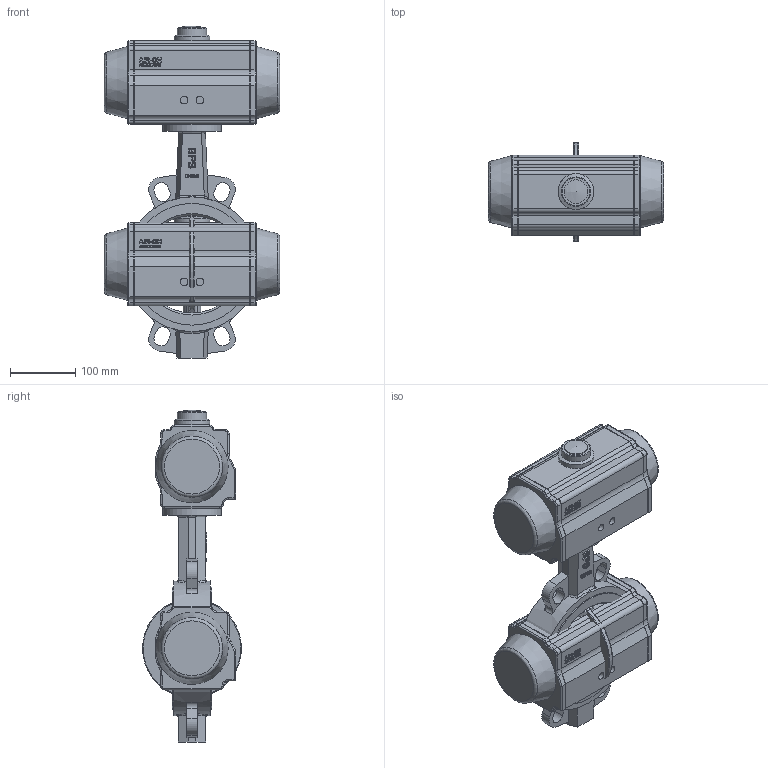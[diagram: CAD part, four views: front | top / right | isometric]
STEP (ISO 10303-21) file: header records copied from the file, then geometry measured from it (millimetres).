
FILE_DESCRIPTION( ( 'Unknown' ), '1' );
FILE_NAME( 'R:/ECCUA/ROOTSI BPS 3D vidinad/Poordklapid Wafer type/Butterfly valve(wafer) with pneumatic actuator BPS/STEP formaat/BPS 2303150P butterfly valve DN150.stp', 'Unknown', ( 'Unknown' ), ( 'Unknown' ), 'PSStep 10.1', 'Unknown', ' ' );
FILE_SCHEMA( ( 'AUTOMOTIVE_DESIGN { 1 0 10303 214 1 1 1 1 }' ) );
Length unit declared in the file: millimetre
Products named in the file (5): Assem1; Butterfly valve wafer type DN150 BPS; BPS 8300100DA-SR pneumatic actuator
Bounding box: 269 x 152 x 510 mm (x, y, z)
Volume: 9742111.9 mm3; surface area: 777469.7 mm2
Topology: 8 solids, 8 shells, 1016 faces, 2582 edges, 1668 vertices
Faces by surface type: plane 326, extrusion 300, cylinder 240, torus 78, bspline 44, cone 26, sphere 2
Full cylindrical faces by diameter (mm): 6.647 x8, 8.376 x8, 9 x8, 11.445 x4, 36 x2, 45 x2, 55 x2, 90 x2, 150 x2, 187 x4, 207 x2
Entity records: 23946 total; most frequent: CARTESIAN_POINT 8159, ORIENTED_EDGE 2442, DIRECTION 2103, EDGE_CURVE 1221, VERTEX_POINT 818, VECTOR 773, AXIS2_PLACEMENT_3D 665, LINE 623
